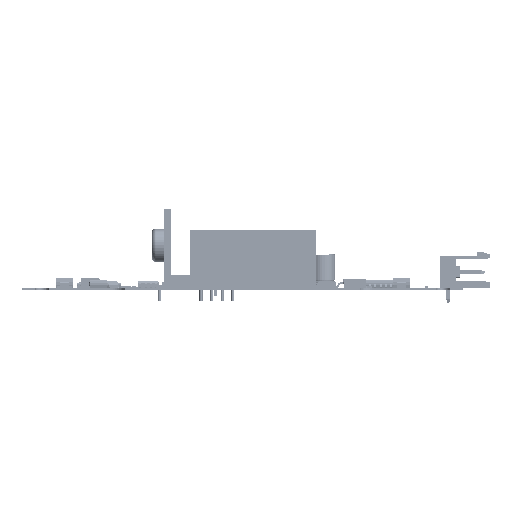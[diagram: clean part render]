
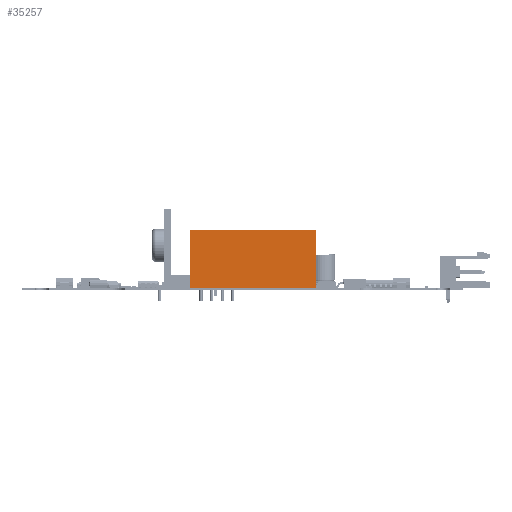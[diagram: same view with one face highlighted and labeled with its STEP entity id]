
A CAD part, left-side view. The second image highlights one B-rep face of the part: STEP entity #35257.
In plain terms, the highlighted planar face has unit normal (-1, 0, 0) as drawn and (0, 0, 1) by its records, which use the part's own axes.
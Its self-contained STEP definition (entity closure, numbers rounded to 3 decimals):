
#35120 = VERTEX_POINT('',#35121);
#35121 = CARTESIAN_POINT('',(0.,0.,7.));
#35127 = EDGE_CURVE('',#35128,#35120,#35130,.T.);
#35128 = VERTEX_POINT('',#35129);
#35129 = CARTESIAN_POINT('',(0.,14.,7.));
#35130 = LINE('',#35131,#35132);
#35131 = CARTESIAN_POINT('',(0.,0.,7.));
#35132 = VECTOR('',#35133,1.);
#35133 = DIRECTION('',(0.,-1.,0.));
#35158 = VERTEX_POINT('',#35159);
#35159 = CARTESIAN_POINT('',(30.,0.,7.));
#35165 = EDGE_CURVE('',#35120,#35158,#35166,.T.);
#35166 = LINE('',#35167,#35168);
#35167 = CARTESIAN_POINT('',(0.,0.,7.));
#35168 = VECTOR('',#35169,1.);
#35169 = DIRECTION('',(1.,0.,0.));
#35189 = VERTEX_POINT('',#35190);
#35190 = CARTESIAN_POINT('',(30.,14.,7.));
#35196 = EDGE_CURVE('',#35158,#35189,#35197,.T.);
#35197 = LINE('',#35198,#35199);
#35198 = CARTESIAN_POINT('',(30.,0.,7.));
#35199 = VECTOR('',#35200,1.);
#35200 = DIRECTION('',(0.,1.,0.));
#35238 = EDGE_CURVE('',#35189,#35128,#35239,.T.);
#35239 = LINE('',#35240,#35241);
#35240 = CARTESIAN_POINT('',(0.,14.,7.));
#35241 = VECTOR('',#35242,1.);
#35242 = DIRECTION('',(-1.,0.,0.));
#35257 = ADVANCED_FACE('',(#35258),#35264,.F.);
#35258 = FACE_BOUND('',#35259,.T.);
#35259 = EDGE_LOOP('',(#35260,#35261,#35262,#35263));
#35260 = ORIENTED_EDGE('',*,*,#35127,.T.);
#35261 = ORIENTED_EDGE('',*,*,#35165,.T.);
#35262 = ORIENTED_EDGE('',*,*,#35196,.T.);
#35263 = ORIENTED_EDGE('',*,*,#35238,.T.);
#35264 = PLANE('',#35265);
#35265 = AXIS2_PLACEMENT_3D('',#35266,#35267,#35268);
#35266 = CARTESIAN_POINT('',(0.,0.,7.));
#35267 = DIRECTION('',(0.,0.,-1.));
#35268 = DIRECTION('',(-1.,0.,0.));
